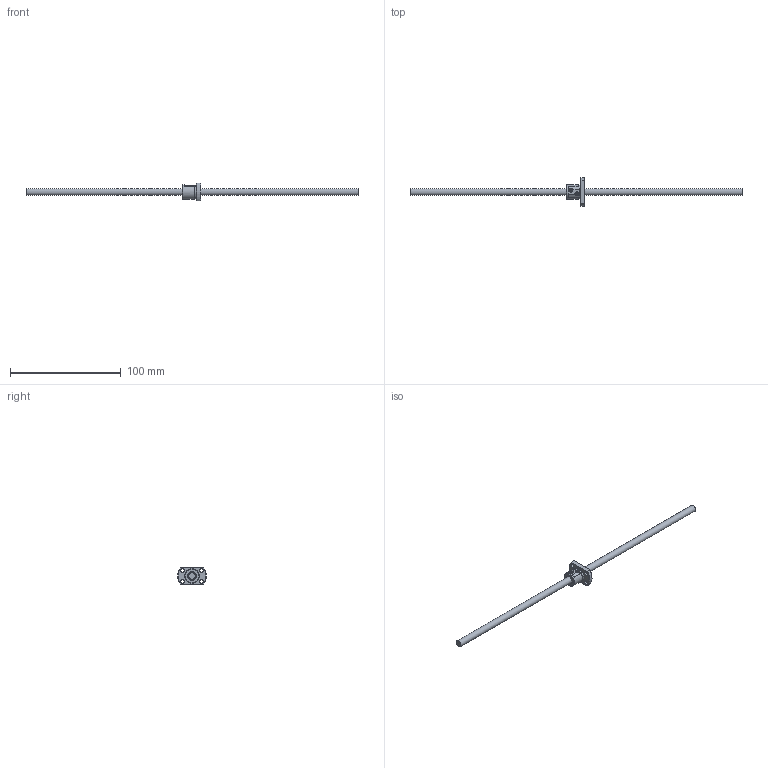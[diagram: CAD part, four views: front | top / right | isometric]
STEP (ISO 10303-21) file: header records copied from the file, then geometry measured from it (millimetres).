
FILE_DESCRIPTION( ( 'STEP AP214' ), ' ' );
FILE_NAME( 'p:/temp/worker_4/1548_2664/app_46_12015091121504627728849260eae72_000000_00_00_000000/format_0/SR0601-300R300C7(141).stp', '2015-09-11T19:50:46', ( '' ), ( '' ), ' ', 'PARTsolutions', ' ' );
FILE_SCHEMA( ( 'AUTOMOTIVE_DESIGN { 1 0 10303 214 1 1 1 1 }' ) );
Length unit declared in the file: millimetre
Products named in the file (3): SR0601-300R300C7(141); _SR0601-300R300C7(141)_shaft; _SR0601-300R300C7C7_nut
Assembly tree (2 placements, depth 2):
  SR0601-300R300C7(141)
    _SR0601-300R300C7(141)_shaft
    _SR0601-300R300C7C7_nut
Bounding box: 300 x 26 x 16 mm (x, y, z)
Volume: 11014.8 mm3; surface area: 7708.1 mm2
Topology: 2 solids, 2 shells, 58 faces, 149 edges, 98 vertices
Faces by surface type: plane 25, cylinder 24, cone 9
Full cylindrical faces by diameter (mm): 1.07 x2, 3.4 x4, 6 x2, 8 x2, 12.6 x1, 13 x1
Entity records: 2210 total; most frequent: CARTESIAN_POINT 355, DIRECTION 286, ORIENTED_EDGE 250, EDGE_CURVE 125, AXIS2_PLACEMENT_3D 118, VERTEX_POINT 91, EDGE_LOOP 88, FACE_OUTER_BOUND 70
